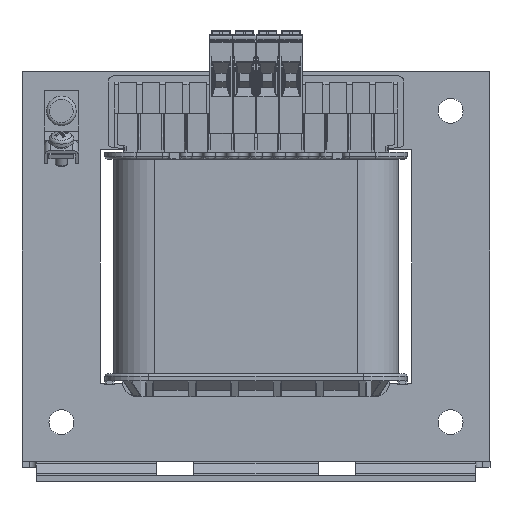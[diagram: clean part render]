
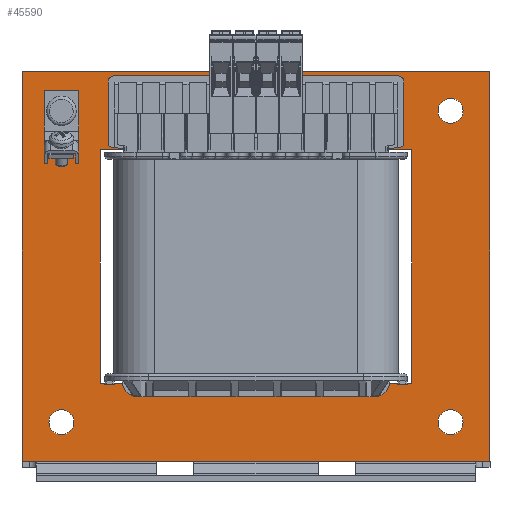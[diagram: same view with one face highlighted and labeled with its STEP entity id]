
A CAD part, front view. The second image highlights one B-rep face of the part: STEP entity #45590.
In plain terms, the highlighted planar face has unit normal (0, -1, 0).
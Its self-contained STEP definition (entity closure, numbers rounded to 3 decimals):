
#837=FACE_BOUND('',#5264,.T.);
#838=FACE_BOUND('',#5265,.T.);
#839=FACE_BOUND('',#5266,.T.);
#840=FACE_BOUND('',#5267,.T.);
#841=FACE_BOUND('',#5268,.T.);
#842=FACE_BOUND('',#5269,.T.);
#976=PLANE('',#48443);
#2758=FACE_OUTER_BOUND('',#5263,.T.);
#5263=EDGE_LOOP('',(#31555,#31556,#31557,#31558));
#5264=EDGE_LOOP('',(#31559));
#5265=EDGE_LOOP('',(#31560));
#5266=EDGE_LOOP('',(#31561));
#5267=EDGE_LOOP('',(#31562));
#5268=EDGE_LOOP('',(#31563,#31564,#31565,#31566));
#5269=EDGE_LOOP('',(#31567,#31568,#31569,#31570));
#7862=LINE('',#65162,#13373);
#7865=LINE('',#65168,#13376);
#7868=LINE('',#65174,#13379);
#7871=LINE('',#65178,#13382);
#7874=LINE('',#65186,#13385);
#7877=LINE('',#65192,#13388);
#7880=LINE('',#65198,#13391);
#7883=LINE('',#65202,#13394);
#7884=LINE('',#65206,#13395);
#7885=LINE('',#65208,#13396);
#7886=LINE('',#65210,#13397);
#7887=LINE('',#65211,#13398);
#13373=VECTOR('',#52265,10.);
#13376=VECTOR('',#52270,10.);
#13379=VECTOR('',#52275,10.);
#13382=VECTOR('',#52280,10.);
#13385=VECTOR('',#52285,10.);
#13388=VECTOR('',#52290,10.);
#13391=VECTOR('',#52295,10.);
#13394=VECTOR('',#52300,10.);
#13395=VECTOR('',#52303,10.);
#13396=VECTOR('',#52304,10.);
#13397=VECTOR('',#52305,10.);
#13398=VECTOR('',#52306,10.);
#18850=CIRCLE('',#48424,4.);
#18852=CIRCLE('',#48427,4.);
#18854=CIRCLE('',#48430,4.);
#18856=CIRCLE('',#48433,4.);
#19886=VERTEX_POINT('',#65132);
#19888=VERTEX_POINT('',#65138);
#19890=VERTEX_POINT('',#65144);
#19892=VERTEX_POINT('',#65150);
#19896=VERTEX_POINT('',#65159);
#19897=VERTEX_POINT('',#65161);
#19899=VERTEX_POINT('',#65167);
#19901=VERTEX_POINT('',#65173);
#19904=VERTEX_POINT('',#65183);
#19905=VERTEX_POINT('',#65185);
#19907=VERTEX_POINT('',#65191);
#19909=VERTEX_POINT('',#65197);
#19910=VERTEX_POINT('',#65204);
#19911=VERTEX_POINT('',#65205);
#19912=VERTEX_POINT('',#65207);
#19913=VERTEX_POINT('',#65209);
#24413=EDGE_CURVE('',#19886,#19886,#18850,.T.);
#24416=EDGE_CURVE('',#19888,#19888,#18852,.T.);
#24419=EDGE_CURVE('',#19890,#19890,#18854,.T.);
#24422=EDGE_CURVE('',#19892,#19892,#18856,.T.);
#24427=EDGE_CURVE('',#19897,#19896,#7862,.T.);
#24430=EDGE_CURVE('',#19899,#19897,#7865,.T.);
#24433=EDGE_CURVE('',#19901,#19899,#7868,.T.);
#24436=EDGE_CURVE('',#19896,#19901,#7871,.T.);
#24439=EDGE_CURVE('',#19905,#19904,#7874,.T.);
#24442=EDGE_CURVE('',#19907,#19905,#7877,.T.);
#24445=EDGE_CURVE('',#19909,#19907,#7880,.T.);
#24448=EDGE_CURVE('',#19904,#19909,#7883,.T.);
#24449=EDGE_CURVE('',#19910,#19911,#7884,.T.);
#24450=EDGE_CURVE('',#19912,#19910,#7885,.T.);
#24451=EDGE_CURVE('',#19913,#19912,#7886,.T.);
#24452=EDGE_CURVE('',#19911,#19913,#7887,.T.);
#31555=ORIENTED_EDGE('',*,*,#24449,.F.);
#31556=ORIENTED_EDGE('',*,*,#24450,.F.);
#31557=ORIENTED_EDGE('',*,*,#24451,.F.);
#31558=ORIENTED_EDGE('',*,*,#24452,.F.);
#31559=ORIENTED_EDGE('',*,*,#24413,.T.);
#31560=ORIENTED_EDGE('',*,*,#24416,.T.);
#31561=ORIENTED_EDGE('',*,*,#24419,.T.);
#31562=ORIENTED_EDGE('',*,*,#24422,.T.);
#31563=ORIENTED_EDGE('',*,*,#24427,.T.);
#31564=ORIENTED_EDGE('',*,*,#24436,.T.);
#31565=ORIENTED_EDGE('',*,*,#24433,.T.);
#31566=ORIENTED_EDGE('',*,*,#24430,.T.);
#31567=ORIENTED_EDGE('',*,*,#24439,.T.);
#31568=ORIENTED_EDGE('',*,*,#24448,.T.);
#31569=ORIENTED_EDGE('',*,*,#24445,.T.);
#31570=ORIENTED_EDGE('',*,*,#24442,.T.);
#45590=ADVANCED_FACE('',(#2758,#837,#838,#839,#840,#841,#842),#976,.F.);
#48424=AXIS2_PLACEMENT_3D('',#65133,#52235,#52236);
#48427=AXIS2_PLACEMENT_3D('',#65139,#52242,#52243);
#48430=AXIS2_PLACEMENT_3D('',#65145,#52249,#52250);
#48433=AXIS2_PLACEMENT_3D('',#65151,#52256,#52257);
#48443=AXIS2_PLACEMENT_3D('',#65203,#52301,#52302);
#52235=DIRECTION('center_axis',(0.,1.,0.));
#52236=DIRECTION('ref_axis',(1.,0.,0.));
#52242=DIRECTION('center_axis',(0.,1.,0.));
#52243=DIRECTION('ref_axis',(1.,0.,0.));
#52249=DIRECTION('center_axis',(0.,1.,0.));
#52250=DIRECTION('ref_axis',(1.,0.,0.));
#52256=DIRECTION('center_axis',(0.,1.,0.));
#52257=DIRECTION('ref_axis',(1.,0.,0.));
#52265=DIRECTION('',(0.,0.,1.));
#52270=DIRECTION('',(-1.,0.,0.));
#52275=DIRECTION('',(0.,0.,-1.));
#52280=DIRECTION('',(1.,0.,0.));
#52285=DIRECTION('',(0.,0.,1.));
#52290=DIRECTION('',(-1.,0.,0.));
#52295=DIRECTION('',(0.,0.,-1.));
#52300=DIRECTION('',(1.,0.,0.));
#52301=DIRECTION('center_axis',(0.,1.,0.));
#52302=DIRECTION('ref_axis',(0.,0.,1.));
#52303=DIRECTION('',(0.,0.,-1.));
#52304=DIRECTION('',(1.,0.,0.));
#52305=DIRECTION('',(0.,0.,1.));
#52306=DIRECTION('',(-1.,0.,0.));
#65132=CARTESIAN_POINT('',(-66.5,-24.8,-50.));
#65133=CARTESIAN_POINT('Origin',(-62.5,-24.8,-50.));
#65138=CARTESIAN_POINT('',(58.5,-24.8,-50.));
#65139=CARTESIAN_POINT('Origin',(62.5,-24.8,-50.));
#65144=CARTESIAN_POINT('',(58.5,-24.8,50.));
#65145=CARTESIAN_POINT('Origin',(62.5,-24.8,50.));
#65150=CARTESIAN_POINT('',(-66.5,-24.8,50.));
#65151=CARTESIAN_POINT('Origin',(-62.5,-24.8,50.));
#65159=CARTESIAN_POINT('',(-50.,-24.8,37.5));
#65161=CARTESIAN_POINT('',(-50.,-24.8,-37.5));
#65162=CARTESIAN_POINT('',(-50.,-24.8,18.75));
#65167=CARTESIAN_POINT('',(-25.,-24.8,-37.5));
#65168=CARTESIAN_POINT('',(-25.,-24.8,-37.5));
#65173=CARTESIAN_POINT('',(-25.,-24.8,37.5));
#65174=CARTESIAN_POINT('',(-25.,-24.8,-18.75));
#65178=CARTESIAN_POINT('',(-12.5,-24.8,37.5));
#65183=CARTESIAN_POINT('',(25.,-24.8,37.5));
#65185=CARTESIAN_POINT('',(25.,-24.8,-37.5));
#65186=CARTESIAN_POINT('',(25.,-24.8,18.75));
#65191=CARTESIAN_POINT('',(50.,-24.8,-37.5));
#65192=CARTESIAN_POINT('',(12.5,-24.8,-37.5));
#65197=CARTESIAN_POINT('',(50.,-24.8,37.5));
#65198=CARTESIAN_POINT('',(50.,-24.8,-18.75));
#65202=CARTESIAN_POINT('',(25.,-24.8,37.5));
#65203=CARTESIAN_POINT('Origin',(0.,-24.8,0.));
#65204=CARTESIAN_POINT('',(75.,-24.8,62.5));
#65205=CARTESIAN_POINT('',(75.,-24.8,-62.5));
#65206=CARTESIAN_POINT('',(75.,-24.8,-62.5));
#65207=CARTESIAN_POINT('',(-75.,-24.8,62.5));
#65208=CARTESIAN_POINT('',(75.,-24.8,62.5));
#65209=CARTESIAN_POINT('',(-75.,-24.8,-62.5));
#65210=CARTESIAN_POINT('',(-75.,-24.8,62.5));
#65211=CARTESIAN_POINT('',(-75.,-24.8,-62.5));
